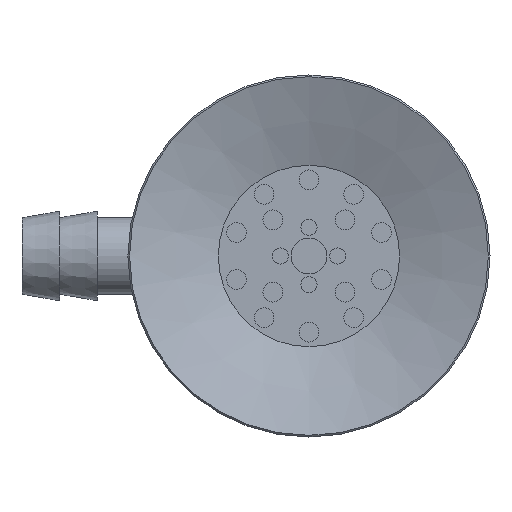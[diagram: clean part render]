
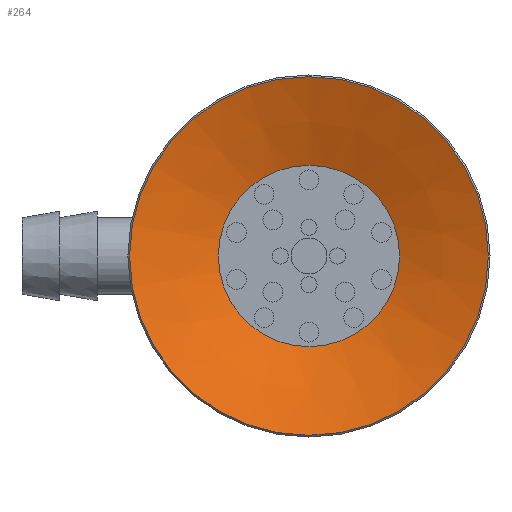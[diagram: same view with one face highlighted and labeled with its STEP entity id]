
A CAD part, front view. The second image highlights one B-rep face of the part: STEP entity #264.
In plain terms, the highlighted conical face has half-angle 70 degrees and reference radius 10 mm.
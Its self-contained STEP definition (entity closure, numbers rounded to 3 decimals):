
#264=ADVANCED_FACE('',(#454,#455),#456,.F.);
#454=FACE_BOUND('',#753,.T.);
#455=FACE_OUTER_BOUND('',#754,.T.);
#456=CONICAL_SURFACE('',#755,10.0,1.222);
#753=EDGE_LOOP('',(#1260));
#754=EDGE_LOOP('',(#1261));
#755=AXIS2_PLACEMENT_3D('',#1262,#1263,#1264);
#1260=ORIENTED_EDGE('',*,*,#1627,.T.);
#1261=ORIENTED_EDGE('',*,*,#1628,.F.);
#1262=CARTESIAN_POINT('',(0.0,0.,0.));
#1263=DIRECTION('',(0.0,0.,-1.0));
#1264=DIRECTION('',(0.0,1.0,0.));
#1627=EDGE_CURVE('',#1837,#1837,#1838,.T.);
#1628=EDGE_CURVE('',#1839,#1839,#1840,.T.);
#1837=VERTEX_POINT('',#2399);
#1838=CIRCLE('',#2400,5.055);
#1839=VERTEX_POINT('',#2401);
#1840=CIRCLE('',#2402,10.0);
#2399=CARTESIAN_POINT('',(0.0,-5.055,1.8));
#2400=AXIS2_PLACEMENT_3D('',#2649,#2650,#2651);
#2401=CARTESIAN_POINT('',(0.0,-10.0,0.));
#2402=AXIS2_PLACEMENT_3D('',#2652,#2653,#2654);
#2649=CARTESIAN_POINT('',(0.0,0.,1.8));
#2650=DIRECTION('',(0.0,0.,1.0));
#2651=DIRECTION('',(0.0,-1.0,0.));
#2652=CARTESIAN_POINT('',(0.0,0.,0.));
#2653=DIRECTION('',(0.0,0.,1.0));
#2654=DIRECTION('',(0.0,-1.0,0.));
